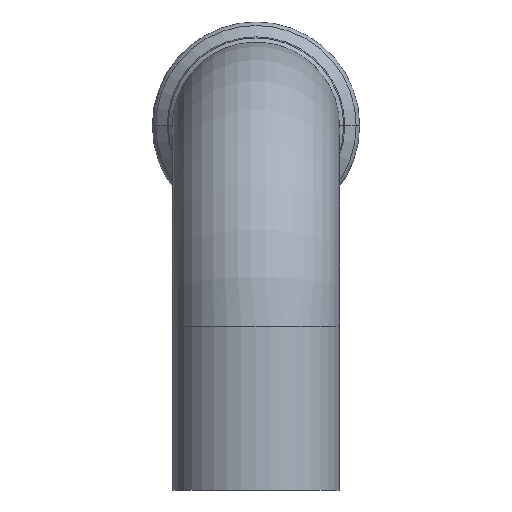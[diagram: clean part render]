
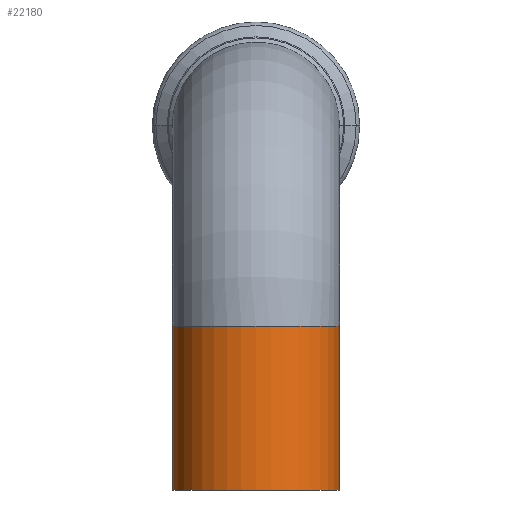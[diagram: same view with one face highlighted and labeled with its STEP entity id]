
A CAD part, left-side view. The second image highlights one B-rep face of the part: STEP entity #22180.
In plain terms, the highlighted cylindrical face has radius 38.05 mm (diameter 76.1 mm), a partial arc.
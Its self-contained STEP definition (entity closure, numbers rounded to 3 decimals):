
#20340=CARTESIAN_POINT('',(-86.,0.,-91.3));
#20350=DIRECTION('',(0.,0.,1.));
#20360=DIRECTION('',(0.,1.,0.));
#20370=AXIS2_PLACEMENT_3D('',#20340,#20350,#20360);
#20380=CYLINDRICAL_SURFACE('',#20370,38.05);
#20390=CARTESIAN_POINT('',(-86.,-38.05,-91.3));
#20400=DIRECTION('',(0.,0.,1.));
#20410=VECTOR('',#20400,1.);
#20420=LINE('',#20390,#20410);
#20430=CARTESIAN_POINT('',(-86.,-38.05,-166.));
#20440=VERTEX_POINT('',#20430);
#20450=CARTESIAN_POINT('',(-86.,-38.05,-91.3));
#20460=VERTEX_POINT('',#20450);
#20470=EDGE_CURVE('',#20440,#20460,#20420,.T.);
#20490=CARTESIAN_POINT('',(-86.,0.,-91.3));
#20500=DIRECTION('',(0.,0.,-1.));
#20510=DIRECTION('',(0.,1.,0.));
#20520=AXIS2_PLACEMENT_3D('',#20490,#20500,#20510);
#20530=CIRCLE('',#20520,38.05);
#20540=CARTESIAN_POINT('',(-86.,38.05,-91.3));
#20550=VERTEX_POINT('',#20540);
#20580=CARTESIAN_POINT('',(-86.,38.05,-91.3));
#20590=DIRECTION('',(0.,0.,1.));
#20600=VECTOR('',#20590,1.);
#20610=LINE('',#20580,#20600);
#20620=CARTESIAN_POINT('',(-86.,38.05,-166.));
#20630=VERTEX_POINT('',#20620);
#20640=EDGE_CURVE('',#20630,#20550,#20610,.T.);
#20660=CARTESIAN_POINT('',(-86.,0.,-166.));
#20670=DIRECTION('',(0.,0.,1.));
#20680=DIRECTION('',(0.,1.,0.));
#20690=AXIS2_PLACEMENT_3D('',#20660,#20670,#20680);
#20700=CIRCLE('',#20690,38.05);
#21520=EDGE_CURVE('',#20630,#20440,#20700,.T.);
#22110=EDGE_CURVE('',#20460,#20550,#20530,.T.);
#22120=ORIENTED_EDGE('',*,*,#22110,.T.);
#22130=ORIENTED_EDGE('',*,*,#20470,.T.);
#22140=ORIENTED_EDGE('',*,*,#21520,.T.);
#22150=ORIENTED_EDGE('',*,*,#20640,.F.);
#22160=EDGE_LOOP('',(#22150,#22140,#22130,#22120));
#22170=FACE_OUTER_BOUND('',#22160,.T.);
#22180=ADVANCED_FACE('',(#22170),#20380,.T.);
